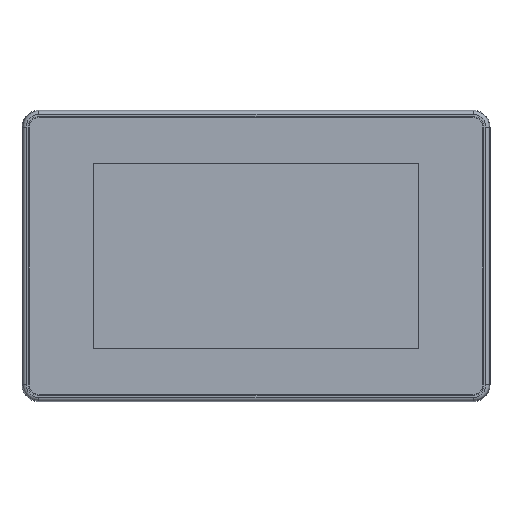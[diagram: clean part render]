
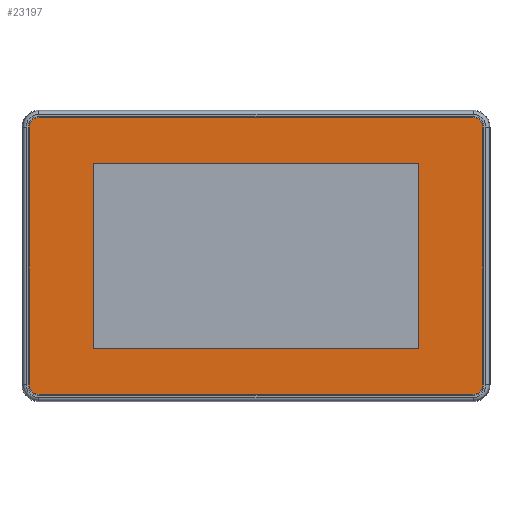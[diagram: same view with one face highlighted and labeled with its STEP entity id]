
A CAD part, top view. The second image highlights one B-rep face of the part: STEP entity #23197.
In plain terms, the highlighted planar face has unit normal (0, 0, 1).
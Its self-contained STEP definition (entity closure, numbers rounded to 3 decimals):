
#6095=DIRECTION('',(0.,-1.,0.));
#6096=VECTOR('',#6095,75.715);
#6097=CARTESIAN_POINT('',(-66.857,37.857,5.88));
#6098=LINE('',#6097,#6096);
#6111=CARTESIAN_POINT('',(63.857,37.857,5.88));
#6112=DIRECTION('',(0.,0.,-1.));
#6113=DIRECTION('',(0.,1.,0.));
#6114=AXIS2_PLACEMENT_3D('',#6111,#6112,#6113);
#6116=DIRECTION('',(0.,-1.,0.));
#6117=VECTOR('',#6116,75.715);
#6118=CARTESIAN_POINT('',(66.857,37.857,5.88));
#6119=LINE('',#6118,#6117);
#6120=CARTESIAN_POINT('',(63.857,-37.857,5.88));
#6121=DIRECTION('',(0.,0.,-1.));
#6122=DIRECTION('',(1.,0.,0.));
#6123=AXIS2_PLACEMENT_3D('',#6120,#6121,#6122);
#6125=DIRECTION('',(-1.,0.,0.));
#6126=VECTOR('',#6125,127.715);
#6127=CARTESIAN_POINT('',(63.857,-40.857,5.88));
#6128=LINE('',#6127,#6126);
#6129=CARTESIAN_POINT('',(-63.857,-37.857,5.88));
#6130=DIRECTION('',(0.,0.,-1.));
#6131=DIRECTION('',(0.,-1.,0.));
#6132=AXIS2_PLACEMENT_3D('',#6129,#6130,#6131);
#6134=CARTESIAN_POINT('',(-63.857,37.857,5.88));
#6135=DIRECTION('',(0.,0.,-1.));
#6136=DIRECTION('',(-1.,0.,0.));
#6137=AXIS2_PLACEMENT_3D('',#6134,#6135,#6136);
#6139=DIRECTION('',(1.,0.,0.));
#6140=VECTOR('',#6139,127.715);
#6141=CARTESIAN_POINT('',(-63.857,40.857,5.88));
#6142=LINE('',#6141,#6140);
#6143=DIRECTION('',(0.,1.,0.));
#6144=VECTOR('',#6143,54.36);
#6145=CARTESIAN_POINT('',(-47.77,-27.18,5.88));
#6146=LINE('',#6145,#6144);
#6151=DIRECTION('',(1.,0.,0.));
#6152=VECTOR('',#6151,95.54);
#6153=CARTESIAN_POINT('',(-47.77,27.18,5.88));
#6154=LINE('',#6153,#6152);
#6159=DIRECTION('',(0.,-1.,0.));
#6160=VECTOR('',#6159,54.36);
#6161=CARTESIAN_POINT('',(47.77,27.18,5.88));
#6162=LINE('',#6161,#6160);
#6167=DIRECTION('',(-1.,0.,0.));
#6168=VECTOR('',#6167,95.54);
#6169=CARTESIAN_POINT('',(47.77,-27.18,5.88));
#6170=LINE('',#6169,#6168);
#14733=CARTESIAN_POINT('',(66.857,37.857,5.88));
#14734=VERTEX_POINT('',#14733);
#14735=CARTESIAN_POINT('',(63.857,40.857,5.88));
#14736=VERTEX_POINT('',#14735);
#14737=CARTESIAN_POINT('',(66.857,-37.857,5.88));
#14738=VERTEX_POINT('',#14737);
#14739=CARTESIAN_POINT('',(63.857,-40.857,5.88));
#14740=VERTEX_POINT('',#14739);
#14741=CARTESIAN_POINT('',(-63.857,-40.857,5.88));
#14742=VERTEX_POINT('',#14741);
#14743=CARTESIAN_POINT('',(-66.857,-37.857,5.88));
#14744=VERTEX_POINT('',#14743);
#14745=CARTESIAN_POINT('',(-66.857,37.857,5.88));
#14746=VERTEX_POINT('',#14745);
#14747=CARTESIAN_POINT('',(-63.857,40.857,5.88));
#14748=VERTEX_POINT('',#14747);
#14749=CARTESIAN_POINT('',(-47.77,-27.18,5.88));
#14750=CARTESIAN_POINT('',(-47.77,27.18,5.88));
#14751=VERTEX_POINT('',#14749);
#14752=VERTEX_POINT('',#14750);
#14753=CARTESIAN_POINT('',(47.77,-27.18,5.88));
#14754=VERTEX_POINT('',#14753);
#14755=CARTESIAN_POINT('',(47.77,27.18,5.88));
#14756=VERTEX_POINT('',#14755);
#23172=CARTESIAN_POINT('',(0.,0.,5.88));
#23173=DIRECTION('',(0.,0.,1.));
#23174=DIRECTION('',(1.,0.,0.));
#23175=AXIS2_PLACEMENT_3D('',#23172,#23173,#23174);
#23176=PLANE('',#23175);
#23177=ORIENTED_EDGE('',*,*,#23068,.T.);
#23178=ORIENTED_EDGE('',*,*,#23083,.T.);
#23179=ORIENTED_EDGE('',*,*,#23097,.T.);
#23180=ORIENTED_EDGE('',*,*,#23111,.T.);
#23181=ORIENTED_EDGE('',*,*,#23125,.T.);
#23182=ORIENTED_EDGE('',*,*,#23139,.F.);
#23183=ORIENTED_EDGE('',*,*,#23153,.T.);
#23184=ORIENTED_EDGE('',*,*,#23166,.T.);
#23185=EDGE_LOOP('',(#23177,#23178,#23179,#23180,#23181,#23182,#23183,#23184));
#23186=FACE_OUTER_BOUND('',#23185,.F.);
#23188=ORIENTED_EDGE('',*,*,#23187,.F.);
#23190=ORIENTED_EDGE('',*,*,#23189,.F.);
#23192=ORIENTED_EDGE('',*,*,#23191,.F.);
#23194=ORIENTED_EDGE('',*,*,#23193,.F.);
#23195=EDGE_LOOP('',(#23188,#23190,#23192,#23194));
#23196=FACE_BOUND('',#23195,.F.);
#23197=ADVANCED_FACE('',(#23186,#23196),#23176,.T.);
#6115=CIRCLE('',#6114,3.);
#6124=CIRCLE('',#6123,3.);
#6133=CIRCLE('',#6132,3.);
#6138=CIRCLE('',#6137,3.);
#23068=EDGE_CURVE('',#14736,#14734,#6115,.T.);
#23083=EDGE_CURVE('',#14734,#14738,#6119,.T.);
#23097=EDGE_CURVE('',#14738,#14740,#6124,.T.);
#23111=EDGE_CURVE('',#14740,#14742,#6128,.T.);
#23125=EDGE_CURVE('',#14742,#14744,#6133,.T.);
#23139=EDGE_CURVE('',#14746,#14744,#6098,.T.);
#23153=EDGE_CURVE('',#14746,#14748,#6138,.T.);
#23166=EDGE_CURVE('',#14748,#14736,#6142,.T.);
#23187=EDGE_CURVE('',#14751,#14752,#6146,.T.);
#23189=EDGE_CURVE('',#14754,#14751,#6170,.T.);
#23191=EDGE_CURVE('',#14756,#14754,#6162,.T.);
#23193=EDGE_CURVE('',#14752,#14756,#6154,.T.);
